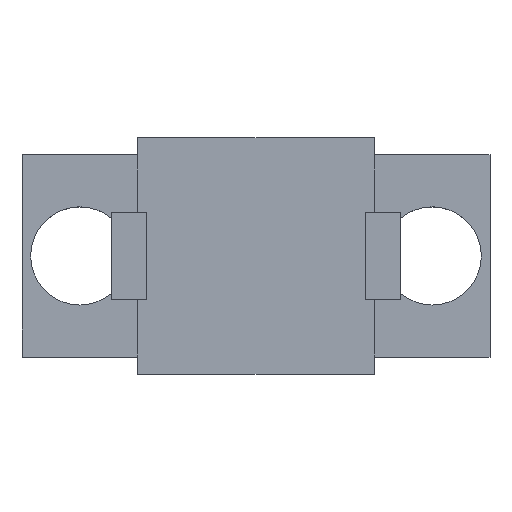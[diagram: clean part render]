
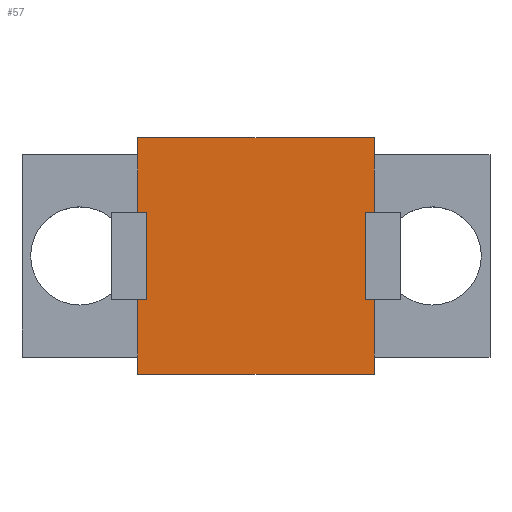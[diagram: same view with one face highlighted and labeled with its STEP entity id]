
A CAD part, top view. The second image highlights one B-rep face of the part: STEP entity #57.
In plain terms, the highlighted planar face has unit normal (0, 0, 1).
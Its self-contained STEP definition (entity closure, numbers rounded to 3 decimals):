
#21 = EDGE_CURVE('',#22,#24,#26,.T.);
#22 = VERTEX_POINT('',#23);
#23 = CARTESIAN_POINT('',(44.275,6.65,25.95));
#24 = VERTEX_POINT('',#25);
#25 = CARTESIAN_POINT('',(44.275,7.25,25.95));
#26 = LINE('',#27,#28);
#27 = CARTESIAN_POINT('',(44.275,6.65,25.95));
#28 = VECTOR('',#29,1.);
#29 = DIRECTION('',(-0.,1.,0.));
#57 = ADVANCED_FACE('',(#58),#179,.T.);
#58 = FACE_BOUND('',#59,.T.);
#59 = EDGE_LOOP('',(#60,#61,#69,#77,#85,#93,#101,#109,#117,#125,#133,
    #141,#149,#157,#165,#173));
#60 = ORIENTED_EDGE('',*,*,#21,.F.);
#61 = ORIENTED_EDGE('',*,*,#62,.T.);
#62 = EDGE_CURVE('',#22,#63,#65,.T.);
#63 = VERTEX_POINT('',#64);
#64 = CARTESIAN_POINT('',(52.475,6.65,25.95));
#65 = LINE('',#66,#67);
#66 = CARTESIAN_POINT('',(44.275,6.65,25.95));
#67 = VECTOR('',#68,1.);
#68 = DIRECTION('',(1.,0.,-0.));
#69 = ORIENTED_EDGE('',*,*,#70,.T.);
#70 = EDGE_CURVE('',#63,#71,#73,.T.);
#71 = VERTEX_POINT('',#72);
#72 = CARTESIAN_POINT('',(52.475,7.25,25.95));
#73 = LINE('',#74,#75);
#74 = CARTESIAN_POINT('',(52.475,6.65,25.95));
#75 = VECTOR('',#76,1.);
#76 = DIRECTION('',(-0.,1.,0.));
#77 = ORIENTED_EDGE('',*,*,#78,.T.);
#78 = EDGE_CURVE('',#71,#79,#81,.T.);
#79 = VERTEX_POINT('',#80);
#80 = CARTESIAN_POINT('',(52.475,9.25,25.95));
#81 = LINE('',#82,#83);
#82 = CARTESIAN_POINT('',(52.475,6.65,25.95));
#83 = VECTOR('',#84,1.);
#84 = DIRECTION('',(-0.,1.,0.));
#85 = ORIENTED_EDGE('',*,*,#86,.T.);
#86 = EDGE_CURVE('',#79,#87,#89,.T.);
#87 = VERTEX_POINT('',#88);
#88 = CARTESIAN_POINT('',(52.175,9.25,25.95));
#89 = LINE('',#90,#91);
#90 = CARTESIAN_POINT('',(48.225,9.25,25.95));
#91 = VECTOR('',#92,1.);
#92 = DIRECTION('',(-1.,-0.,0.));
#93 = ORIENTED_EDGE('',*,*,#94,.T.);
#94 = EDGE_CURVE('',#87,#95,#97,.T.);
#95 = VERTEX_POINT('',#96);
#96 = CARTESIAN_POINT('',(52.175,12.25,25.95));
#97 = LINE('',#98,#99);
#98 = CARTESIAN_POINT('',(52.175,7.95,25.95));
#99 = VECTOR('',#100,1.);
#100 = DIRECTION('',(-0.,1.,0.));
#101 = ORIENTED_EDGE('',*,*,#102,.F.);
#102 = EDGE_CURVE('',#103,#95,#105,.T.);
#103 = VERTEX_POINT('',#104);
#104 = CARTESIAN_POINT('',(52.475,12.25,25.95));
#105 = LINE('',#106,#107);
#106 = CARTESIAN_POINT('',(48.225,12.25,25.95));
#107 = VECTOR('',#108,1.);
#108 = DIRECTION('',(-1.,-0.,0.));
#109 = ORIENTED_EDGE('',*,*,#110,.T.);
#110 = EDGE_CURVE('',#103,#111,#113,.T.);
#111 = VERTEX_POINT('',#112);
#112 = CARTESIAN_POINT('',(52.475,14.25,25.95));
#113 = LINE('',#114,#115);
#114 = CARTESIAN_POINT('',(52.475,6.65,25.95));
#115 = VECTOR('',#116,1.);
#116 = DIRECTION('',(-0.,1.,0.));
#117 = ORIENTED_EDGE('',*,*,#118,.T.);
#118 = EDGE_CURVE('',#111,#119,#121,.T.);
#119 = VERTEX_POINT('',#120);
#120 = CARTESIAN_POINT('',(52.475,14.85,25.95));
#121 = LINE('',#122,#123);
#122 = CARTESIAN_POINT('',(52.475,6.65,25.95));
#123 = VECTOR('',#124,1.);
#124 = DIRECTION('',(-0.,1.,0.));
#125 = ORIENTED_EDGE('',*,*,#126,.F.);
#126 = EDGE_CURVE('',#127,#119,#129,.T.);
#127 = VERTEX_POINT('',#128);
#128 = CARTESIAN_POINT('',(44.275,14.85,25.95));
#129 = LINE('',#130,#131);
#130 = CARTESIAN_POINT('',(44.275,14.85,25.95));
#131 = VECTOR('',#132,1.);
#132 = DIRECTION('',(1.,0.,-0.));
#133 = ORIENTED_EDGE('',*,*,#134,.F.);
#134 = EDGE_CURVE('',#135,#127,#137,.T.);
#135 = VERTEX_POINT('',#136);
#136 = CARTESIAN_POINT('',(44.275,14.25,25.95));
#137 = LINE('',#138,#139);
#138 = CARTESIAN_POINT('',(44.275,6.65,25.95));
#139 = VECTOR('',#140,1.);
#140 = DIRECTION('',(-0.,1.,0.));
#141 = ORIENTED_EDGE('',*,*,#142,.F.);
#142 = EDGE_CURVE('',#143,#135,#145,.T.);
#143 = VERTEX_POINT('',#144);
#144 = CARTESIAN_POINT('',(44.275,12.25,25.95));
#145 = LINE('',#146,#147);
#146 = CARTESIAN_POINT('',(44.275,6.65,25.95));
#147 = VECTOR('',#148,1.);
#148 = DIRECTION('',(-0.,1.,0.));
#149 = ORIENTED_EDGE('',*,*,#150,.F.);
#150 = EDGE_CURVE('',#151,#143,#153,.T.);
#151 = VERTEX_POINT('',#152);
#152 = CARTESIAN_POINT('',(44.575,12.25,25.95));
#153 = LINE('',#154,#155);
#154 = CARTESIAN_POINT('',(43.825,12.25,25.95));
#155 = VECTOR('',#156,1.);
#156 = DIRECTION('',(-1.,-0.,0.));
#157 = ORIENTED_EDGE('',*,*,#158,.F.);
#158 = EDGE_CURVE('',#159,#151,#161,.T.);
#159 = VERTEX_POINT('',#160);
#160 = CARTESIAN_POINT('',(44.575,9.25,25.95));
#161 = LINE('',#162,#163);
#162 = CARTESIAN_POINT('',(44.575,7.95,25.95));
#163 = VECTOR('',#164,1.);
#164 = DIRECTION('',(-0.,1.,0.));
#165 = ORIENTED_EDGE('',*,*,#166,.T.);
#166 = EDGE_CURVE('',#159,#167,#169,.T.);
#167 = VERTEX_POINT('',#168);
#168 = CARTESIAN_POINT('',(44.275,9.25,25.95));
#169 = LINE('',#170,#171);
#170 = CARTESIAN_POINT('',(43.825,9.25,25.95));
#171 = VECTOR('',#172,1.);
#172 = DIRECTION('',(-1.,-0.,0.));
#173 = ORIENTED_EDGE('',*,*,#174,.F.);
#174 = EDGE_CURVE('',#24,#167,#175,.T.);
#175 = LINE('',#176,#177);
#176 = CARTESIAN_POINT('',(44.275,6.65,25.95));
#177 = VECTOR('',#178,1.);
#178 = DIRECTION('',(-0.,1.,0.));
#179 = PLANE('',#180);
#180 = AXIS2_PLACEMENT_3D('',#181,#182,#183);
#181 = CARTESIAN_POINT('',(44.275,6.65,25.95));
#182 = DIRECTION('',(0.,0.,1.));
#183 = DIRECTION('',(1.,0.,-0.));
